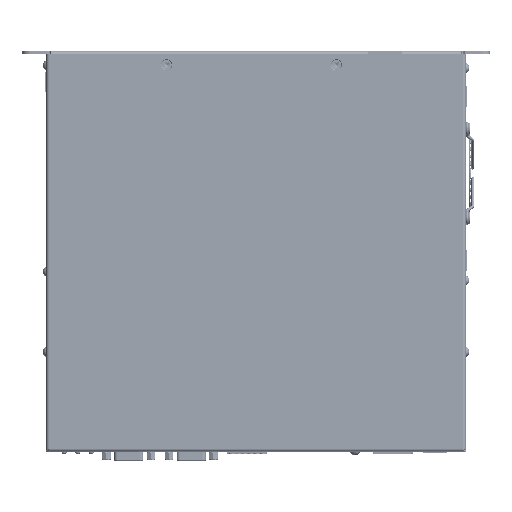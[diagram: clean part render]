
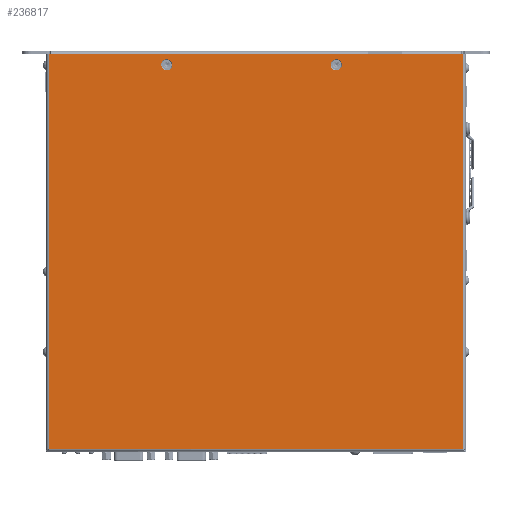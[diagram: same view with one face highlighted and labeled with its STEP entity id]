
A CAD part, top view. The second image highlights one B-rep face of the part: STEP entity #236817.
In plain terms, the highlighted planar face has unit normal (0, 0, 1) as drawn and (0, 1, 0) by its records, which use the part's own axes.
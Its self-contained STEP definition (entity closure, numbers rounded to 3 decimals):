
#13146 = VECTOR ( 'NONE', #242134, 1000. ) ;
#39480 = EDGE_CURVE ( 'NONE', #269763, #61129, #153309, .T. ) ;
#39977 = DIRECTION ( 'NONE',  ( 0., 0., 1. ) ) ;
#46157 = CARTESIAN_POINT ( 'NONE',  ( 66.75, 67.3, -219.85 ) ) ;
#55690 = AXIS2_PLACEMENT_3D ( 'NONE', #359324, #272182, #334950 ) ;
#61129 = VERTEX_POINT ( 'NONE', #106252 ) ;
#63684 = VERTEX_POINT ( 'NONE', #212798 ) ;
#66384 = LINE ( 'NONE', #193719, #262687 ) ;
#78216 = EDGE_LOOP ( 'NONE', ( #91311, #227868 ) ) ;
#82123 = DIRECTION ( 'NONE',  ( 0., 1., 0. ) ) ;
#82573 = ORIENTED_EDGE ( 'NONE', *, *, #195983, .T. ) ;
#88218 = LINE ( 'NONE', #387644, #394488 ) ;
#91311 = ORIENTED_EDGE ( 'NONE', *, *, #159409, .F. ) ;
#94871 = PLANE ( 'NONE',  #326665 ) ;
#96111 = EDGE_CURVE ( 'NONE', #383617, #263677, #88218, .T. ) ;
#106252 = CARTESIAN_POINT ( 'NONE',  ( 0.8, 67.3, -1.6 ) ) ;
#113360 = CARTESIAN_POINT ( 'NONE',  ( 0.8, 67.3, -222.6 ) ) ;
#114223 = ORIENTED_EDGE ( 'NONE', *, *, #140902, .T. ) ;
#120910 = CARTESIAN_POINT ( 'NONE',  ( 0., 67.3, -1.6 ) ) ;
#121315 = FACE_BOUND ( 'NONE', #78216, .T. ) ;
#124417 = VERTEX_POINT ( 'NONE', #381624 ) ;
#125161 = DIRECTION ( 'NONE',  ( 0., 0., -1. ) ) ;
#125272 = FACE_BOUND ( 'NONE', #382472, .T. ) ;
#140902 = EDGE_CURVE ( 'NONE', #263677, #61129, #66384, .T. ) ;
#142547 = EDGE_CURVE ( 'NONE', #383820, #172403, #335240, .T. ) ;
#146234 = CARTESIAN_POINT ( 'NONE',  ( 66.75, 67.3, -216.75 ) ) ;
#151700 = DIRECTION ( 'NONE',  ( 0., 0., -1. ) ) ;
#153309 = LINE ( 'NONE', #120910, #13146 ) ;
#153702 = CARTESIAN_POINT ( 'NONE',  ( 0., 67.3, 0. ) ) ;
#159409 = EDGE_CURVE ( 'NONE', #172403, #383820, #302592, .T. ) ;
#172403 = VERTEX_POINT ( 'NONE', #189288 ) ;
#174412 = DIRECTION ( 'NONE',  ( 0., 0., 1. ) ) ;
#181163 = CARTESIAN_POINT ( 'NONE',  ( 232.7, 67.3, -222.6 ) ) ;
#181685 = EDGE_LOOP ( 'NONE', ( #82573, #317535, #114223, #271086 ) ) ;
#182955 = VECTOR ( 'NONE', #125161, 1000. ) ;
#187878 = DIRECTION ( 'NONE',  ( 0., -1., 0. ) ) ;
#189288 = CARTESIAN_POINT ( 'NONE',  ( 66.75, 67.3, -213.65 ) ) ;
#189894 = EDGE_CURVE ( 'NONE', #63684, #124417, #372184, .T. ) ;
#193719 = CARTESIAN_POINT ( 'NONE',  ( 0.8, 67.3, -222.6 ) ) ;
#195983 = EDGE_CURVE ( 'NONE', #269763, #383617, #218133, .T. ) ;
#212798 = CARTESIAN_POINT ( 'NONE',  ( 161.75, 67.3, -213.65 ) ) ;
#216490 = EDGE_CURVE ( 'NONE', #124417, #63684, #257169, .T. ) ;
#218133 = LINE ( 'NONE', #337443, #182955 ) ;
#227868 = ORIENTED_EDGE ( 'NONE', *, *, #142547, .F. ) ;
#235053 = DIRECTION ( 'NONE',  ( 0., 1., 0. ) ) ;
#236817 = ADVANCED_FACE ( 'NONE', ( #125272, #121315, #371905 ), #94871, .F. ) ;
#239008 = CARTESIAN_POINT ( 'NONE',  ( 66.75, 67.3, -216.75 ) ) ;
#240926 = CARTESIAN_POINT ( 'NONE',  ( 232.7, 67.3, -1.6 ) ) ;
#241820 = CARTESIAN_POINT ( 'NONE',  ( 161.75, 67.3, -216.75 ) ) ;
#242134 = DIRECTION ( 'NONE',  ( -1., 0., 0. ) ) ;
#257169 = CIRCLE ( 'NONE', #315248, 3.1 ) ;
#257243 = AXIS2_PLACEMENT_3D ( 'NONE', #239008, #267273, #174412 ) ;
#262687 = VECTOR ( 'NONE', #39977, 1000. ) ;
#263677 = VERTEX_POINT ( 'NONE', #113360 ) ;
#267273 = DIRECTION ( 'NONE',  ( 0., 1., 0. ) ) ;
#269763 = VERTEX_POINT ( 'NONE', #240926 ) ;
#271086 = ORIENTED_EDGE ( 'NONE', *, *, #39480, .F. ) ;
#272182 = DIRECTION ( 'NONE',  ( 0., 1., 0. ) ) ;
#296120 = AXIS2_PLACEMENT_3D ( 'NONE', #146234, #235053, #392869 ) ;
#299890 = ORIENTED_EDGE ( 'NONE', *, *, #189894, .F. ) ;
#302592 = CIRCLE ( 'NONE', #257243, 3.1 ) ;
#315248 = AXIS2_PLACEMENT_3D ( 'NONE', #241820, #82123, #328839 ) ;
#317535 = ORIENTED_EDGE ( 'NONE', *, *, #96111, .T. ) ;
#326665 = AXIS2_PLACEMENT_3D ( 'NONE', #153702, #187878, #151700 ) ;
#328839 = DIRECTION ( 'NONE',  ( 0., 0., 1. ) ) ;
#328924 = DIRECTION ( 'NONE',  ( -1., 0., 0. ) ) ;
#334950 = DIRECTION ( 'NONE',  ( 0., 0., 1. ) ) ;
#335240 = CIRCLE ( 'NONE', #296120, 3.1 ) ;
#337443 = CARTESIAN_POINT ( 'NONE',  ( 232.7, 67.3, -1.6 ) ) ;
#359324 = CARTESIAN_POINT ( 'NONE',  ( 161.75, 67.3, -216.75 ) ) ;
#360845 = ORIENTED_EDGE ( 'NONE', *, *, #216490, .F. ) ;
#371905 = FACE_OUTER_BOUND ( 'NONE', #181685, .T. ) ;
#372184 = CIRCLE ( 'NONE', #55690, 3.1 ) ;
#381624 = CARTESIAN_POINT ( 'NONE',  ( 161.75, 67.3, -219.85 ) ) ;
#382472 = EDGE_LOOP ( 'NONE', ( #299890, #360845 ) ) ;
#383617 = VERTEX_POINT ( 'NONE', #181163 ) ;
#383820 = VERTEX_POINT ( 'NONE', #46157 ) ;
#387644 = CARTESIAN_POINT ( 'NONE',  ( 0., 67.3, -222.6 ) ) ;
#392869 = DIRECTION ( 'NONE',  ( 0., 0., 1. ) ) ;
#394488 = VECTOR ( 'NONE', #328924, 1000. ) ;
